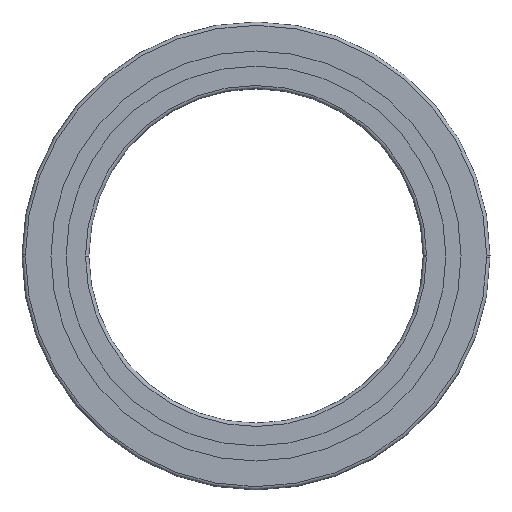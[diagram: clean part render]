
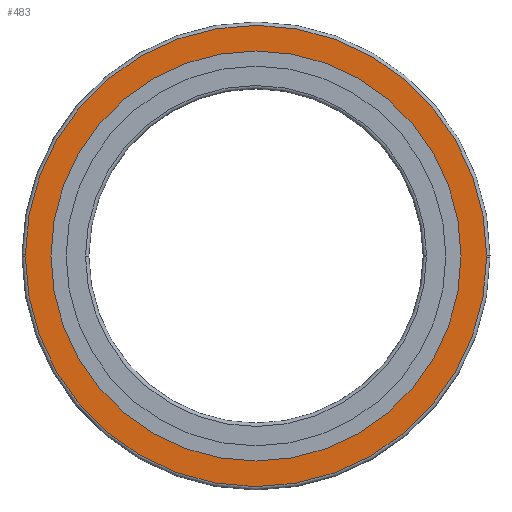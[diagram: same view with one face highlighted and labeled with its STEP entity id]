
A CAD part, front view. The second image highlights one B-rep face of the part: STEP entity #483.
In plain terms, the highlighted planar face has unit normal (0, -1, 0).
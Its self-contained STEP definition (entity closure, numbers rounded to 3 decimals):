
#247=VERTEX_POINT('',#649);
#375=EDGE_CURVE('',#479,#473,#793,.T.);
#379=EDGE_CURVE('',#523,#247,#797,.T.);
#463=EDGE_CURVE('',#585,#507,#892,.T.);
#471=EDGE_CURVE('',#507,#523,#900,.T.);
#473=VERTEX_POINT('',#902);
#479=VERTEX_POINT('',#908);
#483=ADVANCED_FACE('',(#913,#914),#915,.F.);
#497=EDGE_CURVE('',#473,#479,#931,.T.);
#507=VERTEX_POINT('',#943);
#523=VERTEX_POINT('',#962);
#567=EDGE_CURVE('',#247,#585,#1011,.T.);
#585=VERTEX_POINT('',#1031);
#649=CARTESIAN_POINT('',(-103.5,0.0,0.));
#793=CIRCLE('',#1276,92.0);
#797=CIRCLE('',#1281,103.5);
#892=CIRCLE('',#1397,103.5);
#900=CIRCLE('',#1407,103.5);
#902=CARTESIAN_POINT('',(92.0,0.0,0.));
#908=CARTESIAN_POINT('',(-92.0,0.0,0.0));
#913=FACE_OUTER_BOUND('',#1422,.T.);
#914=FACE_BOUND('',#1423,.T.);
#915=PLANE('',#1424);
#931=CIRCLE('',#1444,92.0);
#943=CARTESIAN_POINT('',(103.5,0.0,0.0));
#962=CARTESIAN_POINT('',(-103.498,0.0,0.642));
#1011=CIRCLE('',#1546,103.5);
#1031=CARTESIAN_POINT('',(103.498,0.0,-0.642));
#1276=AXIS2_PLACEMENT_3D('',#1790,#1791,#1792);
#1281=AXIS2_PLACEMENT_3D('',#1793,#1794,#1795);
#1397=AXIS2_PLACEMENT_3D('',#1933,#1934,#1935);
#1407=AXIS2_PLACEMENT_3D('',#1939,#1940,#1941);
#1422=EDGE_LOOP('',(#1957,#1958,#1959,#1960));
#1423=EDGE_LOOP('',(#1961,#1962));
#1424=AXIS2_PLACEMENT_3D('',#1963,#1964,#1965);
#1444=AXIS2_PLACEMENT_3D('',#1984,#1985,#1986);
#1546=AXIS2_PLACEMENT_3D('',#2111,#2112,#2113);
#1790=CARTESIAN_POINT('',(0.0,0.0,0.0));
#1791=DIRECTION('',(0.0,-1.0,0.0));
#1792=DIRECTION('',(-1.0,0.0,0.0));
#1793=CARTESIAN_POINT('',(0.0,0.0,0.0));
#1794=DIRECTION('',(0.0,-1.0,0.0));
#1795=DIRECTION('',(1.0,0.0,0.0));
#1933=CARTESIAN_POINT('',(0.0,0.0,0.0));
#1934=DIRECTION('',(0.0,-1.0,0.0));
#1935=DIRECTION('',(-1.0,0.0,0.0));
#1939=CARTESIAN_POINT('',(0.0,0.0,0.0));
#1940=DIRECTION('',(0.0,-1.0,0.0));
#1941=DIRECTION('',(1.0,0.0,0.0));
#1957=ORIENTED_EDGE('',*,*,#567,.T.);
#1958=ORIENTED_EDGE('',*,*,#463,.T.);
#1959=ORIENTED_EDGE('',*,*,#471,.T.);
#1960=ORIENTED_EDGE('',*,*,#379,.T.);
#1961=ORIENTED_EDGE('',*,*,#375,.F.);
#1962=ORIENTED_EDGE('',*,*,#497,.F.);
#1963=CARTESIAN_POINT('',(0.0,0.0,0.0));
#1964=DIRECTION('',(0.0,1.0,0.0));
#1965=DIRECTION('',(1.0,0.0,-0.0));
#1984=CARTESIAN_POINT('',(0.0,0.0,0.0));
#1985=DIRECTION('',(0.0,-1.0,0.0));
#1986=DIRECTION('',(1.0,0.0,0.0));
#2111=CARTESIAN_POINT('',(0.0,0.0,0.0));
#2112=DIRECTION('',(0.0,-1.0,0.0));
#2113=DIRECTION('',(-1.0,0.0,0.0));
